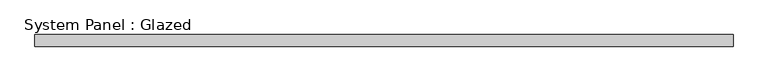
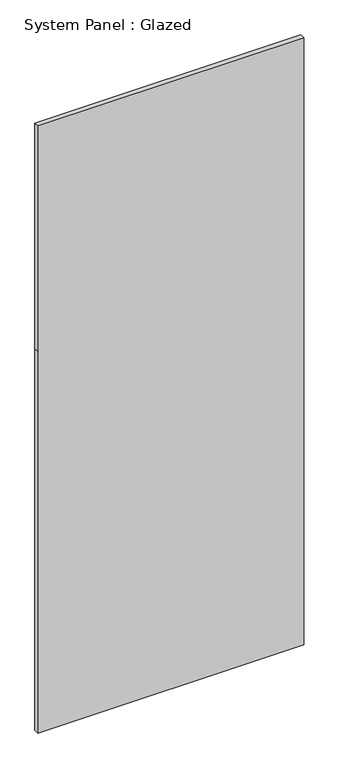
"""IFC4 building model written with IfcOpenShell, lengths in millimetres: plate geometry, System Panel : Glazed."""

from ifc_helpers import new_model, si_unit, frame, origin, place, context, project, spatial, polyline, outline, extrude, source, transform, mapped, element, save


def system_panel_glazed_d9c70c5e(model_context):
    return source(origin(), model_context, "Body", "SweptSolid", [
        extrude(outline(polyline([(0.0, -725.0), (0.0, 725.0), (2200.0, 725.0), (3500.0, 725.0), (3500.0, -725.0), (2200.0, -725.0), (0.0, -725.0)])), frame((0.0, -49.5, 0.0), z_axis=(0.0, 1.0, 0.0), x_axis=(0.0, 0.0, 1.0)), (0.0, 0.0, 1.0), 25.0),
    ])


if __name__ == "__main__":
    model = new_model("IFC4")
    model_context = context("Model", 3, world=origin())
    ifc_project = project(units=[si_unit("LENGTHUNIT", "METRE", prefix="MILLI")], contexts=[model_context])
    site = spatial("IfcSite", under=ifc_project)
    building = spatial("IfcBuilding", under=site)
    placement = place(None, origin())
    system_panel_glazed_shape = system_panel_glazed_d9c70c5e(model_context)
    element("IfcPlate", 1, ObjectType="System Panel : Glazed", at=placement, inside=building, context=model_context, shape_type="MappedRepresentation", body=[
        mapped(system_panel_glazed_shape, transform((0.0, 0.0, 0.0), x_axis=(1.0, 0.0, 0.0), y_axis=(0.0, 1.0, 0.0), z_axis=(0.0, 0.0, 1.0))),
    ])
    save(model, "model.ifc")
